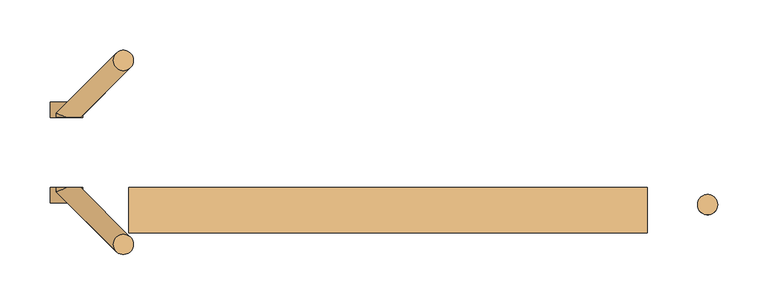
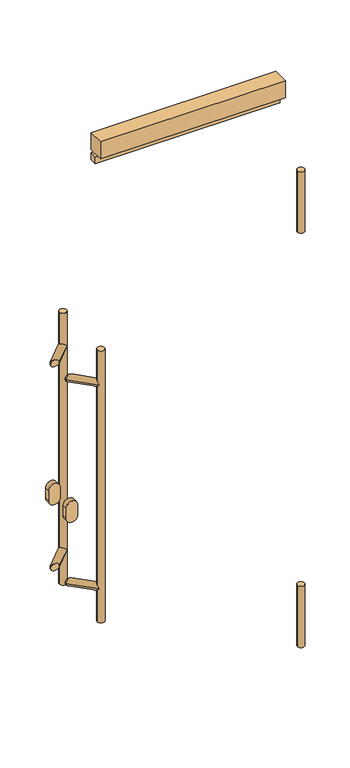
"""IFC4 building model written with IfcOpenShell, lengths in millimetres: door geometry, Alumark_фурнитура однопольной двери S70 : Alumark_фурнитура однопольной двери S70."""

from ifc_helpers import new_model, si_unit, point, frame, frame_2d, origin, place, context, project, spatial, polyline, circle_curve, ellipse_curve, trimmed, segment, composite_curve, outline, extrude, source, transform, mapped, element, save
from ifc_brep_helpers import plane_surface, cylinder_surface, advanced_brep


def door_e2464cb3(model_context):
    return source(origin(), model_context, "Body", "SolidModel", [
        extrude(outline(polyline([(-118.0, 0.0), (-118.0, -20.0), (-633.0, -20.0), (-633.0, 0.0), (-118.0, 0.0)])), frame((0.0, 0.0, 1920.0), z_axis=(0.0, 0.0, 1.0), x_axis=(1.0, 0.0, 0.0)), (0.0, 0.0, 1.0), 20.0),
        extrude(outline(polyline([(-118.0, 0.0), (-118.0, -45.0), (-633.0, -45.0), (-633.0, 0.0), (-118.0, 0.0)])), frame((0.0, 0.0, 1950.0), z_axis=(0.0, 0.0, 1.0), x_axis=(1.0, 0.0, 0.0)), (0.0, 0.0, 1.0), 50.0),
        advanced_brep(
        [(-648.4314575, -56.5685425, 1400.0), (-628.4314575, -56.5685425, 1400.0), (-648.4314575, -56.5685425, 600.0), (-628.4314575, -56.5685425, 600.0), (-648.4314575, -56.5685425, 692.9289322), (-631.3603897, -49.4974747, 700.0), (-648.4314575, -56.5685425, 707.0710678), (-648.4314575, -56.5685425, 1292.9289322), (-631.3603897, -49.4974747, 1300.0), (-648.4314575, -56.5685425, 1307.0710678), (-645.5025253, -63.6396103, 1300.0), (-645.5025253, -63.6396103, 700.0), (-695.0, 0.0, 710.0), (-705.0, 0.0, 700.0), (-705.0, -4.1421356, 700.0), (-695.0, 0.0, 690.0), (-680.8578644, 0.0, 700.0), (-695.0, 0.0, 1310.0), (-705.0, 0.0, 1300.0), (-705.0, -4.1421356, 1300.0), (-695.0, 0.0, 1290.0), (-680.8578644, 0.0, 1300.0)],
        [
            (0, 1, circle_curve(frame((-638.4314575, -56.5685425, 1400.0), z_axis=(0.0, 0.0, 1.0), x_axis=(1.0, 0.0, 0.0)), 10.0)),
            (1, 0, circle_curve(frame((-638.4314575, -56.5685425, 1400.0), z_axis=(0.0, 0.0, 1.0), x_axis=(1.0, 0.0, 0.0)), 10.0)),
            (2, 3, circle_curve(frame((-638.4314575, -56.5685425, 600.0), z_axis=(0.0, 0.0, -1.0), x_axis=(1.0, 0.0, 0.0)), 10.0)),
            (3, 2, circle_curve(frame((-638.4314575, -56.5685425, 600.0), z_axis=(0.0, 0.0, -1.0), x_axis=(1.0, 0.0, 0.0)), 10.0)),
            (1, 3),
            (2, 4),
            (4, 5, ellipse_curve(frame((-638.4314575, -56.5685425, 700.0), z_axis=(0.5000000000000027, -0.4999999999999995, -0.7071067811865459), x_axis=(0.49999999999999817, -0.4999999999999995, 0.7071067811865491)), 14.1421356, 10.0)),
            (5, 6, ellipse_curve(frame((-638.4314575, -56.5685425, 700.0), z_axis=(0.4999999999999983, -0.4999999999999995, 0.707106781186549), x_axis=(-0.5000000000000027, 0.49999999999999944, 0.707106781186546)), 14.1421356, 10.0)),
            (6, 7),
            (7, 8, ellipse_curve(frame((-638.4314575, -56.5685425, 1300.0), z_axis=(0.5000000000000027, -0.4999999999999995, -0.7071067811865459), x_axis=(0.49999999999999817, -0.4999999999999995, 0.7071067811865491)), 14.1421356, 10.0)),
            (8, 9, ellipse_curve(frame((-638.4314575, -56.5685425, 1300.0), z_axis=(0.4999999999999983, -0.4999999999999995, 0.707106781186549), x_axis=(-0.5000000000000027, 0.49999999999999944, 0.707106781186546)), 14.1421356, 10.0)),
            (9, 0),
            (9, 10, ellipse_curve(frame((-638.4314575, -56.5685425, 1300.0), z_axis=(0.4999999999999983, -0.4999999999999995, 0.707106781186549), x_axis=(-0.5000000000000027, 0.49999999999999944, 0.707106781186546)), 14.1421356, 10.0)),
            (10, 7, ellipse_curve(frame((-638.4314575, -56.5685425, 1300.0), z_axis=(0.5000000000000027, -0.4999999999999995, -0.7071067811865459), x_axis=(0.49999999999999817, -0.4999999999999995, 0.7071067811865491)), 14.1421356, 10.0)),
            (6, 11, ellipse_curve(frame((-638.4314575, -56.5685425, 700.0), z_axis=(0.4999999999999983, -0.4999999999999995, 0.707106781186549), x_axis=(-0.5000000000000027, 0.49999999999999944, 0.707106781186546)), 14.1421356, 10.0)),
            (11, 4, ellipse_curve(frame((-638.4314575, -56.5685425, 700.0), z_axis=(0.5000000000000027, -0.4999999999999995, -0.7071067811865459), x_axis=(0.49999999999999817, -0.4999999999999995, 0.7071067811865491)), 14.1421356, 10.0)),
            (12, 13, circle_curve(frame((-695.0, 0.0, 700.0), z_axis=(0.0, -1.0, 0.0), x_axis=(-1.0, 0.0, 0.0)), 10.0)),
            (13, 14),
            (14, 12, ellipse_curve(frame((-695.0, 0.0, 700.0), z_axis=(-0.38268343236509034, 0.9238795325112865, 0.0), x_axis=(0.9238795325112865, 0.3826834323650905, 0.0)), 10.823922, 10.0)),
            (13, 15, circle_curve(frame((-695.0, 0.0, 700.0), z_axis=(0.0, -1.0, 0.0), x_axis=(-1.0, 0.0, 0.0)), 10.0)),
            (15, 14, ellipse_curve(frame((-695.0, 0.0, 700.0), z_axis=(-0.38268343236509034, 0.9238795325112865, 0.0), x_axis=(0.9238795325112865, 0.3826834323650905, 0.0)), 10.823922, 10.0)),
            (5, 16),
            (16, 12, ellipse_curve(frame((-695.0, 0.0, 700.0), z_axis=(0.0, -1.0, 0.0), x_axis=(-1.0, 0.0, 0.0)), 14.1421356, 10.0)),
            (14, 11),
            (15, 16, ellipse_curve(frame((-695.0, 0.0, 700.0), z_axis=(0.0, -1.0, 0.0), x_axis=(-1.0, 0.0, 0.0)), 14.1421356, 10.0)),
            (17, 18, circle_curve(frame((-695.0, 0.0, 1300.0), z_axis=(0.0, -1.0, 0.0), x_axis=(-1.0, 0.0, 0.0)), 10.0)),
            (18, 19),
            (19, 17, ellipse_curve(frame((-695.0, 0.0, 1300.0), z_axis=(-0.38268343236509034, 0.9238795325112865, 0.0), x_axis=(0.9238795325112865, 0.3826834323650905, 0.0)), 10.823922, 10.0)),
            (18, 20, circle_curve(frame((-695.0, 0.0, 1300.0), z_axis=(0.0, -1.0, 0.0), x_axis=(-1.0, 0.0, 0.0)), 10.0)),
            (20, 19, ellipse_curve(frame((-695.0, 0.0, 1300.0), z_axis=(-0.38268343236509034, 0.9238795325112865, 0.0), x_axis=(0.9238795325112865, 0.3826834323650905, 0.0)), 10.823922, 10.0)),
            (8, 21),
            (21, 17, ellipse_curve(frame((-695.0, 0.0, 1300.0), z_axis=(0.0, -1.0, 0.0), x_axis=(-1.0, 0.0, 0.0)), 14.1421356, 10.0)),
            (19, 10),
            (20, 21, ellipse_curve(frame((-695.0, 0.0, 1300.0), z_axis=(0.0, -1.0, 0.0), x_axis=(-1.0, 0.0, 0.0)), 14.1421356, 10.0)),
        ],
        [
            plane_surface(frame((-628.4314575, -56.5685425, 1400.0), z_axis=(0.0, 0.0, 1.0), x_axis=(0.0, -1.0, 0.0))),
            plane_surface(frame((-628.4314575, -56.5685425, 600.0), z_axis=(0.0, 0.0, -1.0), x_axis=(0.0, 1.0, 0.0))),
            cylinder_surface(frame((-638.4314575, -56.5685425, 600.0), z_axis=(0.0, 0.0, 1.0), x_axis=(1.0, 0.0, 0.0)), 10.0),
            cylinder_surface(frame((-695.0, 70.0, 700.0), z_axis=(0.0, 1.0, 0.0), x_axis=(-1.0, 0.0, 0.0)), 10.0),
            cylinder_surface(frame((-695.0, 0.0, 700.0), z_axis=(-0.7071067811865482, 0.7071067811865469, 0.0), x_axis=(-0.7071067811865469, -0.7071067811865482, 0.0)), 10.0),
            cylinder_surface(frame((-695.0, 70.0, 1300.0), z_axis=(0.0, 1.0, 0.0), x_axis=(-1.0, 0.0, 0.0)), 10.0),
            cylinder_surface(frame((-695.0, 0.0, 1300.0), z_axis=(-0.7071067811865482, 0.7071067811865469, 0.0), x_axis=(-0.7071067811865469, -0.7071067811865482, 0.0)), 10.0),
            plane_surface(frame((-725.0, 0.0, 650.0), z_axis=(0.0, 1.0, 0.0), x_axis=(0.0, 0.0, 1.0))),
        ],
        [
            (0, [[1, 2]]),
            (1, [[3, 4]]),
            (2, [[5, -3, 6, 7, 8, 9, 10, 11, 12, -2]]),
            (2, [[-12, 13, 14, -9, 15, 16, -6, -4, -5, -1]]),
            (3, [[17, 18, 19]]),
            (3, [[20, 21, -18]]),
            (4, [[-15, -8, 22, 23, -19, 24]]),
            (4, [[-21, 25, -22, -7, -16, -24]]),
            (5, [[26, 27, 28]]),
            (5, [[29, 30, -27]]),
            (6, [[-13, -11, 31, 32, -28, 33]]),
            (6, [[-30, 34, -31, -10, -14, -33]]),
            (7, [[-23, -25, -20, -17]]),
            (7, [[-32, -34, -29, -26]]),
        ],
    ),
        advanced_brep(
        [(-648.4314575, 126.5685425, 1400.0), (-628.4314575, 126.5685425, 1400.0), (-648.4314575, 126.5685425, 600.0), (-628.4314575, 126.5685425, 600.0), (-648.4314575, 126.5685425, 692.9289322), (-645.5025253, 133.6396103, 700.0), (-648.4314575, 126.5685425, 707.0710678), (-648.4314575, 126.5685425, 1292.9289322), (-645.5025253, 133.6396103, 1300.0), (-648.4314575, 126.5685425, 1307.0710678), (-631.3603897, 119.4974747, 1300.0), (-631.3603897, 119.4974747, 700.0), (-705.0, 74.1421356, 700.0), (-695.0, 70.0, 710.0), (-680.8578644, 70.0, 700.0), (-695.0, 70.0, 690.0), (-705.0, 70.0, 700.0), (-705.0, 74.1421356, 1300.0), (-695.0, 70.0, 1310.0), (-680.8578644, 70.0, 1300.0), (-695.0, 70.0, 1290.0), (-705.0, 70.0, 1300.0)],
        [
            (0, 1, circle_curve(frame((-638.4314575, 126.5685425, 1400.0), z_axis=(0.0, 0.0, 1.0), x_axis=(1.0, 0.0, 0.0)), 10.0)),
            (1, 0, circle_curve(frame((-638.4314575, 126.5685425, 1400.0), z_axis=(0.0, 0.0, 1.0), x_axis=(1.0, 0.0, 0.0)), 10.0)),
            (2, 3, circle_curve(frame((-638.4314575, 126.5685425, 600.0), z_axis=(0.0, 0.0, -1.0), x_axis=(1.0, 0.0, 0.0)), 10.0)),
            (3, 2, circle_curve(frame((-638.4314575, 126.5685425, 600.0), z_axis=(0.0, 0.0, -1.0), x_axis=(1.0, 0.0, 0.0)), 10.0)),
            (1, 3),
            (2, 4),
            (4, 5, ellipse_curve(frame((-638.4314575, 126.5685425, 700.0), z_axis=(0.5000000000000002, 0.5000000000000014, -0.7071067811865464), x_axis=(0.4999999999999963, 0.500000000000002, 0.7071067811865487)), 14.1421356, 10.0)),
            (5, 6, ellipse_curve(frame((-638.4314575, 126.5685425, 700.0), z_axis=(0.4999999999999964, 0.500000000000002, 0.7071067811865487), x_axis=(-0.5000000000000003, -0.5000000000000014, 0.7071067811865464)), 14.1421356, 10.0)),
            (6, 7),
            (7, 8, ellipse_curve(frame((-638.4314575, 126.5685425, 1300.0), z_axis=(0.5000000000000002, 0.5000000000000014, -0.7071067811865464), x_axis=(0.4999999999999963, 0.500000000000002, 0.7071067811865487)), 14.1421356, 10.0)),
            (8, 9, ellipse_curve(frame((-638.4314575, 126.5685425, 1300.0), z_axis=(0.4999999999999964, 0.500000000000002, 0.7071067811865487), x_axis=(-0.5000000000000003, -0.5000000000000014, 0.7071067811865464)), 14.1421356, 10.0)),
            (9, 0),
            (9, 10, ellipse_curve(frame((-638.4314575, 126.5685425, 1300.0), z_axis=(0.4999999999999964, 0.500000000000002, 0.7071067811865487), x_axis=(-0.5000000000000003, -0.5000000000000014, 0.7071067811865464)), 14.1421356, 10.0)),
            (10, 7, ellipse_curve(frame((-638.4314575, 126.5685425, 1300.0), z_axis=(0.5000000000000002, 0.5000000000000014, -0.7071067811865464), x_axis=(0.4999999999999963, 0.500000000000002, 0.7071067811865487)), 14.1421356, 10.0)),
            (6, 11, ellipse_curve(frame((-638.4314575, 126.5685425, 700.0), z_axis=(0.4999999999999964, 0.500000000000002, 0.7071067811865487), x_axis=(-0.5000000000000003, -0.5000000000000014, 0.7071067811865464)), 14.1421356, 10.0)),
            (11, 4, ellipse_curve(frame((-638.4314575, 126.5685425, 700.0), z_axis=(0.5000000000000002, 0.5000000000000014, -0.7071067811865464), x_axis=(0.4999999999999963, 0.500000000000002, 0.7071067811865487)), 14.1421356, 10.0)),
            (12, 13, ellipse_curve(frame((-695.0, 70.0, 700.0), z_axis=(0.382683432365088, 0.9238795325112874, 0.0), x_axis=(0.9238795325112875, -0.38268343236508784, 0.0)), 10.823922, 10.0)),
            (13, 14, ellipse_curve(frame((-695.0, 70.0, 700.0), z_axis=(0.0, 1.0, 0.0), x_axis=(1.0, 0.0, 0.0)), 14.1421356, 10.0)),
            (14, 11),
            (5, 12),
            (14, 15, ellipse_curve(frame((-695.0, 70.0, 700.0), z_axis=(0.0, 1.0, 0.0), x_axis=(1.0, 0.0, 0.0)), 14.1421356, 10.0)),
            (15, 12, ellipse_curve(frame((-695.0, 70.0, 700.0), z_axis=(0.382683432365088, 0.9238795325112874, 0.0), x_axis=(0.9238795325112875, -0.38268343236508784, 0.0)), 10.823922, 10.0)),
            (12, 16),
            (16, 13, circle_curve(frame((-695.0, 70.0, 700.0), z_axis=(0.0, 1.0, 0.0), x_axis=(-1.0, 0.0, 0.0)), 10.0)),
            (15, 16, circle_curve(frame((-695.0, 70.0, 700.0), z_axis=(0.0, 1.0, 0.0), x_axis=(-1.0, 0.0, 0.0)), 10.0)),
            (17, 18, ellipse_curve(frame((-695.0, 70.0, 1300.0), z_axis=(0.382683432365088, 0.9238795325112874, 0.0), x_axis=(0.9238795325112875, -0.38268343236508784, 0.0)), 10.823922, 10.0)),
            (18, 19, ellipse_curve(frame((-695.0, 70.0, 1300.0), z_axis=(0.0, 1.0, 0.0), x_axis=(1.0, 0.0, 0.0)), 14.1421356, 10.0)),
            (19, 10),
            (8, 17),
            (19, 20, ellipse_curve(frame((-695.0, 70.0, 1300.0), z_axis=(0.0, 1.0, 0.0), x_axis=(1.0, 0.0, 0.0)), 14.1421356, 10.0)),
            (20, 17, ellipse_curve(frame((-695.0, 70.0, 1300.0), z_axis=(0.382683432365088, 0.9238795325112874, 0.0), x_axis=(0.9238795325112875, -0.38268343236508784, 0.0)), 10.823922, 10.0)),
            (17, 21),
            (21, 18, circle_curve(frame((-695.0, 70.0, 1300.0), z_axis=(0.0, 1.0, 0.0), x_axis=(-1.0, 0.0, 0.0)), 10.0)),
            (20, 21, circle_curve(frame((-695.0, 70.0, 1300.0), z_axis=(0.0, 1.0, 0.0), x_axis=(-1.0, 0.0, 0.0)), 10.0)),
        ],
        [
            plane_surface(frame((-628.4314575, -56.5685425, 1400.0), z_axis=(0.0, 0.0, 1.0), x_axis=(0.0, -1.0, 0.0))),
            plane_surface(frame((-628.4314575, -56.5685425, 600.0), z_axis=(0.0, 0.0, -1.0), x_axis=(0.0, 1.0, 0.0))),
            cylinder_surface(frame((-638.4314575, 126.5685425, 1000.0), z_axis=(0.0, 0.0, 1.0), x_axis=(1.0, 0.0, 0.0)), 10.0),
            cylinder_surface(frame((-638.4314575, 126.5685425, 700.0), z_axis=(0.707106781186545, 0.7071067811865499, 0.0), x_axis=(-0.7071067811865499, 0.707106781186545, 0.0)), 10.0),
            cylinder_surface(frame((-695.0, 70.0, 700.0), z_axis=(0.0, 1.0, 0.0), x_axis=(-1.0, 0.0, 0.0)), 10.0),
            cylinder_surface(frame((-638.4314575, 126.5685425, 1300.0), z_axis=(0.707106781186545, 0.7071067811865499, 0.0), x_axis=(-0.7071067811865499, 0.707106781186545, 0.0)), 10.0),
            cylinder_surface(frame((-695.0, 70.0, 1300.0), z_axis=(0.0, 1.0, 0.0), x_axis=(-1.0, 0.0, 0.0)), 10.0),
            plane_surface(frame((-665.0, 70.0, 650.0), z_axis=(0.0, -1.0, 0.0), x_axis=(0.0, 0.0, 1.0))),
        ],
        [
            (0, [[1, 2]]),
            (1, [[3, 4]]),
            (2, [[5, -3, 6, 7, 8, 9, 10, 11, 12, -2]]),
            (2, [[-12, 13, 14, -9, 15, 16, -6, -4, -5, -1]]),
            (3, [[17, 18, 19, -15, -8, 20]]),
            (3, [[-7, -16, -19, 21, 22, -20]]),
            (4, [[23, 24, -17]]),
            (4, [[25, -23, -22]]),
            (5, [[26, 27, 28, -13, -11, 29]]),
            (5, [[-10, -14, -28, 30, 31, -29]]),
            (6, [[32, 33, -26]]),
            (6, [[34, -32, -31]]),
            (7, [[-24, -25, -21, -18]]),
            (7, [[-33, -34, -30, -27]]),
        ],
    ),
        extrude(outline(composite_curve([segment(polyline([(930.0, -711.0), (900.0, -711.0)]), True, "CONTINUOUS"), segment(trimmed(circle_curve(frame_2d((900.0, -695.0)), 16.0), [point((900.0, -711.0))], [point((900.0, -679.0))], False, "CARTESIAN"), True, "CONTINUOUS"), segment(polyline([(900.0, -679.0), (930.0, -679.0)]), True, "CONTINUOUS"), segment(trimmed(circle_curve(frame_2d((930.0, -695.0)), 16.0), [point((930.0, -679.0))], [point((930.0, -711.0))], False, "CARTESIAN"), True, "CONTINUOUS")], self_intersect=False)), frame((0.0, -15.0, 0.0), z_axis=(0.0, 1.0, 0.0), x_axis=(0.0, 0.0, 1.0)), (0.0, 0.0, 1.0), 15.0),
        extrude(outline(composite_curve([segment(polyline([(900.0, -679.0), (930.0, -679.0)]), True, "CONTINUOUS"), segment(trimmed(circle_curve(frame_2d((930.0, -695.0)), 16.0), [point((930.0, -679.0))], [point((930.0, -711.0))], False, "CARTESIAN"), True, "CONTINUOUS"), segment(polyline([(930.0, -711.0), (900.0, -711.0)]), True, "CONTINUOUS"), segment(trimmed(circle_curve(frame_2d((900.0, -695.0)), 16.0), [point((900.0, -711.0))], [point((900.0, -679.0))], False, "CARTESIAN"), True, "CONTINUOUS")], self_intersect=False)), frame((0.0, 70.0, 0.0), z_axis=(0.0, 1.0, 0.0), x_axis=(0.0, 0.0, 1.0)), (0.0, 0.0, 1.0), 15.0),
        extrude(outline(composite_curve([segment(trimmed(circle_curve(frame_2d((-58.0, -17.0)), 10.0), [point((-68.0, -17.0))], [point((-48.0, -17.0))], False, "CARTESIAN"), True, "CONTINUOUS"), segment(trimmed(circle_curve(frame_2d((-58.0, -17.0)), 10.0), [point((-48.0, -17.0))], [point((-68.0, -17.0))], False, "CARTESIAN"), True, "CONTINUOUS")], self_intersect=False)), frame((0.0, 0.0, 1520.0), z_axis=(0.0, 0.0, 1.0), x_axis=(1.0, 0.0, 0.0)), (0.0, 0.0, 1.0), 180.0),
        extrude(outline(composite_curve([segment(trimmed(circle_curve(frame_2d((-58.0, -17.0)), 10.0), [point((-68.0, -17.0))], [point((-48.0, -17.0))], False, "CARTESIAN"), True, "CONTINUOUS"), segment(trimmed(circle_curve(frame_2d((-58.0, -17.0)), 10.0), [point((-48.0, -17.0))], [point((-68.0, -17.0))], False, "CARTESIAN"), True, "CONTINUOUS")], self_intersect=False)), frame((0.0, 0.0, 300.0), z_axis=(0.0, 0.0, 1.0), x_axis=(1.0, 0.0, 0.0)), (0.0, 0.0, 1.0), 180.0),
    ])


if __name__ == "__main__":
    model = new_model("IFC4")
    model_context = context("Model", 3, world=origin())
    ifc_project = project(units=[si_unit("LENGTHUNIT", "METRE", prefix="MILLI")], contexts=[model_context])
    site = spatial("IfcSite", under=ifc_project)
    building = spatial("IfcBuilding", under=site)
    placement = place(None, origin())
    door_shape = door_e2464cb3(model_context)
    element("IfcDoor", 1, ObjectType="Alumark_фурнитура однопольной двери S70 : Alumark_фурнитура однопольной двери S70", at=placement, inside=building, context=model_context, shape_type="MappedRepresentation", body=[
        mapped(door_shape, transform((0.0, 0.0, 0.0), x_axis=(1.0, 0.0, 0.0), y_axis=(0.0, 1.0, 0.0), z_axis=(0.0, 0.0, 1.0))),
    ])
    save(model, "model.ifc")
